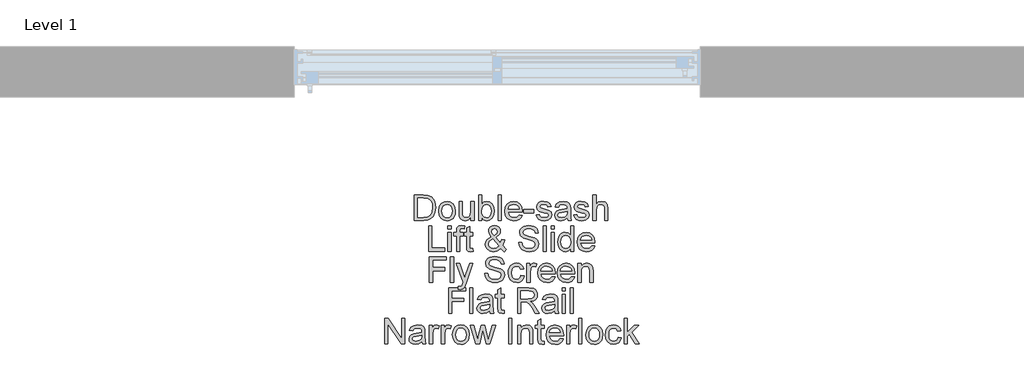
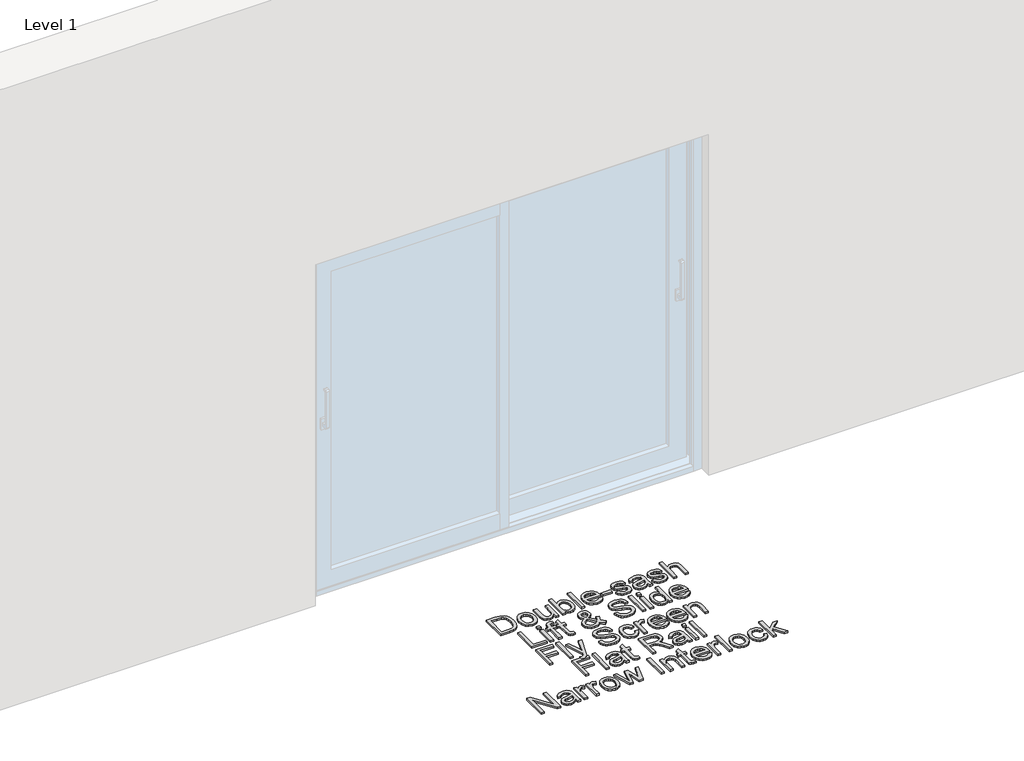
# One storey, part 4 of 7: 1 proxy.
"""IFC4 building model written with IfcOpenShell, lengths in millimetres."""

from ifc_helpers import new_model, si_unit, origin, origin_with_axes, place, context, project, spatial, polyline, outline, extrude, element, save

model = new_model("IFC4")

# Units and contexts
model_context = context("Model", 3, world=origin())
ifc_project = project(units=[si_unit("LENGTHUNIT", "METRE", prefix="MILLI")], contexts=[model_context])

# Site, building, storey
site = spatial("IfcSite", under=ifc_project)
building = spatial("IfcBuilding", under=site)
storey = spatial("IfcBuildingStorey", under=building, Name="Level 1", Elevation=0.0)

# Proxy
placement = place(None, origin())
element("IfcBuildingElementProxy", 1, Name="150mm Arial", ObjectType="150mm Arial", at=placement, inside=storey, context=model_context, shape_type="SweptSolid", body=[
    extrude(outline(polyline([(7088.4009515, -897.6627533), (7088.4009515, -746.9782881), (7140.3826774, -746.9782881), (7167.2748513, -749.1487919), (7189.4213474, -759.9277343), (7199.8416049, -771.4056526), (7207.2636242, -785.679474), (7211.7057993, -802.4732871), (7213.1865243, -821.5111803), (7209.1766105, -851.9166272), (7198.8759147, -873.8607883), (7185.1171281, -887.5276044), (7167.1093044, -895.0875794), (7142.884275, -897.6627533), (7088.4009515, -897.6627533)]), holes=[polyline([(7107.2365097, -878.8271952), (7140.5666184, -878.8271952), (7164.8100419, -876.1048684), (7178.7895577, -868.4161347), (7190.2490819, -849.7093353), (7194.3509661, -821.2168747), (7192.3414107, -800.6890594), (7186.3127445, -785.5323212), (7177.4054017, -775.1212607), (7166.7598165, -768.8304786), (7140.0515836, -765.8138463), (7107.2365097, -765.8138463), (7107.2365097, -878.8271952)])]), origin_with_axes(), (0.0, 0.0, 1.0), 10.0),
    extrude(outline(polyline([(7232.0220824, -842.3333013), (7236.0963755, -815.6526596), (7248.3192548, -796.8998749), (7263.4208107, -787.712022), (7281.5022108, -784.6494044), (7301.2896636, -788.3788081), (7317.0947938, -799.5670193), (7327.4552705, -817.3311212), (7330.9087627, -840.7881969), (7329.3820525, -859.8168931), (7324.8019216, -874.3022466), (7317.3017274, -885.150167), (7307.0148272, -893.2665635), (7294.7965464, -898.3295395), (7281.5022108, -900.0171981), (7261.4756347, -896.30159), (7245.6888986, -885.1547655), (7235.4387865, -867.0181831), (7232.0220824, -842.3333013)]), holes=[polyline([(7250.8576406, -842.2965131), (7253.0373414, -859.343245), (7259.5764439, -871.4879494), (7269.4172873, -878.7582173), (7281.5022108, -881.18164), (7293.531952, -878.7444217), (7303.3544013, -871.4327671), (7309.8935038, -859.1271143), (7312.0732046, -841.7079019), (7309.8797082, -825.1578106), (7303.299219, -813.1786531), (7293.4629742, -805.9083852), (7281.5022108, -803.4849626), (7269.4172873, -805.8991882), (7259.5764439, -813.141865), (7253.0373414, -825.2589782), (7250.8576406, -842.2965131)])]), origin_with_axes(), (0.0, 0.0, 1.0), 10.0),
    extrude(outline(polyline([(7422.7321087, -897.6627533), (7422.7321087, -878.6432542), (7407.9800407, -894.6737121), (7388.7398124, -900.0171981), (7371.0262943, -896.2648018), (7358.8126121, -886.8470227), (7353.2024117, -872.9778715), (7352.0987657, -855.4666885), (7352.0987657, -787.0038492), (7370.9343238, -787.0038492), (7370.9343238, -846.6007324), (7372.074758, -865.8041726), (7379.5243684, -877.0797557), (7393.5590665, -881.18164), (7409.2860218, -876.9877852), (7419.6786882, -865.5650493), (7422.7321087, -844.5773814), (7422.7321087, -787.0038492), (7441.5676669, -787.0038492), (7441.5676669, -897.6627533), (7422.7321087, -897.6627533)])), origin_with_axes(), (0.0, 0.0, 1.0), 10.0),
    extrude(outline(polyline([(7486.3021175, -897.6627533), (7467.4665594, -897.6627533), (7467.4665594, -746.9782881), (7486.3021175, -746.9782881), (7486.3021175, -802.8595632), (7499.490687, -789.2019441), (7515.8798299, -784.6494044), (7534.7521763, -788.7512887), (7549.3938797, -800.2843892), (7558.3885945, -818.2186365), (7561.6443501, -840.6778323), (7558.2736313, -865.8225667), (7548.161475, -884.5293661), (7533.322035, -896.1452401), (7515.7694653, -900.0171981), (7499.0216375, -895.0232), (7486.3021175, -880.0412058), (7486.3021175, -897.6627533)]), holes=[polyline([(7486.3021175, -841.5607491), (7487.5897045, -857.2693103), (7491.4524654, -867.9010999), (7501.3209, -877.861505), (7514.1507845, -881.18164), (7525.0216975, -878.7352247), (7534.3107179, -871.3959789), (7540.6842734, -859.2098878), (7542.808792, -842.2229367), (7540.7716454, -824.9876652), (7534.6602058, -812.9395299), (7525.6608925, -805.8486044), (7514.9601249, -803.4849626), (7504.089212, -805.9313778), (7494.8001916, -813.2706236), (7488.426636, -825.2359855), (7486.3021175, -841.5607491)])]), origin_with_axes(), (0.0, 0.0, 1.0), 10.0),
    extrude(outline(polyline([(7582.834353, -897.6627533), (7582.834353, -746.9782881), (7601.6699112, -746.9782881), (7601.6699112, -897.6627533), (7582.834353, -897.6627533)])), origin_with_axes(), (0.0, 0.0, 1.0), 10.0),
    extrude(outline(polyline([(7707.3991966, -864.7005266), (7725.8668728, -867.0549713), (7719.2128072, -880.9701078), (7708.5948131, -891.3719712), (7694.2520138, -897.8558914), (7676.4235326, -900.0171981), (7654.3230218, -896.2877944), (7637.3176765, -885.0995832), (7626.4743547, -867.1791315), (7622.8599141, -843.2530063), (7626.5111429, -818.5221391), (7637.4648293, -800.0268718), (7654.2402483, -788.4937713), (7675.3566748, -784.6494044), (7695.8155123, -788.4845742), (7712.1632684, -799.9900836), (7722.8824301, -818.4485627), (7726.455484, -843.1426417), (7726.3451194, -848.2194132), (7641.6954723, -848.2194132), (7644.9558265, -862.3184907), (7652.529597, -872.6835659), (7663.4602908, -879.0571214), (7676.7914146, -881.18164), (7695.2590908, -877.2453026), (7707.3991966, -864.7005266)]), holes=[polyline([(7641.6954723, -829.383855), (7707.6199258, -829.383855), (7705.072343, -819.4326471), (7700.0783449, -812.3141305), (7689.0970674, -805.6922545), (7675.2830984, -803.4849626), (7662.5865711, -805.2461976), (7652.0881386, -810.5299028), (7644.7902796, -818.765861), (7641.6954723, -829.383855)])]), origin_with_axes(), (0.0, 0.0, 1.0), 10.0),
    extrude(outline(polyline([(7735.873263, -852.9283027), (7735.873263, -834.0927446), (7794.7343823, -834.0927446), (7794.7343823, -852.9283027), (7735.873263, -852.9283027)])), origin_with_axes(), (0.0, 0.0, 1.0), 10.0),
    extrude(outline(polyline([(7808.8610509, -864.7005266), (7827.696609, -862.3460818), (7830.6672561, -870.4026975), (7836.4154123, -876.3255976), (7856.3914047, -881.18164), (7875.5948448, -876.7302678), (7881.8488387, -866.2824192), (7880.2761432, -861.4815591), (7875.5580566, -857.8211333), (7856.1706755, -852.4500561), (7827.8069736, -843.2346122), (7815.4277445, -832.4740638), (7811.2154956, -817.2805374), (7814.60001, -803.2458393), (7823.8338481, -792.5220791), (7835.808407, -786.9486669), (7852.0136089, -784.6494044), (7874.9326572, -788.3466185), (7889.5007842, -798.3530087), (7895.9755073, -815.2571864), (7877.1399492, -817.6116312), (7870.0582208, -807.2189648), (7853.4851369, -803.4849626), (7835.4589191, -807.0534179), (7830.0510538, -815.367551), (7832.295134, -820.8489927), (7839.3216801, -825.0060593), (7855.5452761, -829.015973), (7883.191608, -837.8819291), (7896.0306896, -847.9251076), (7900.6843969, -864.2958564), (7895.2213492, -882.3220741), (7879.4576058, -895.4002791), (7856.1338873, -900.0171981), (7837.1419793, -897.791512), (7823.2820251, -891.1144538), (7814.0297929, -880.0595999), (7808.8610509, -864.7005266)])), origin_with_axes(), (0.0, 0.0, 1.0), 10.0),
    extrude(outline(polyline([(7992.5077429, -883.5360847), (7974.2424018, -896.30159), (7954.0640744, -900.0171981), (7938.3233235, -897.782315), (7926.712048, -891.0776656), (7919.5521447, -880.8965314), (7917.1655103, -868.2321937), (7920.7707538, -853.3329729), (7930.2437152, -842.5172423), (7943.4322847, -836.3368247), (7959.7294571, -833.5041334), (7992.3973783, -827.0294103), (7992.5077429, -822.8355555), (7991.2109588, -814.4294519), (7987.3206067, -808.9296161), (7978.6201976, -804.846126), (7966.4984858, -803.4849626), (7947.4421985, -807.1086002), (7938.3555132, -819.966076), (7919.519955, -817.6116312), (7927.6685412, -799.2175314), (7944.0760782, -788.438589), (7968.926507, -784.6494044), (7991.7535848, -787.9971306), (8004.6478487, -796.4032342), (8010.423596, -809.1871335), (8011.343301, -825.6682469), (8011.343301, -849.10233), (8012.2997942, -881.8254334), (8016.0521906, -897.6627533), (7997.2166324, -897.6627533), (7992.5077429, -883.5360847)]), holes=[polyline([(7992.5077429, -845.8649684), (7962.1206901, -851.6407157), (7945.9154882, -854.6941363), (7938.5762424, -859.6605432), (7936.0010684, -866.9078185), (7941.6112688, -877.0981498), (7958.0739881, -881.18164), (7977.1302755, -876.6750855), (7989.4175341, -865.7673844), (7992.3973783, -851.1992574), (7992.5077429, -845.8649684)])]), origin_with_axes(), (0.0, 0.0, 1.0), 10.0),
    extrude(outline(polyline([(8030.1788592, -864.7005266), (8049.0144173, -862.3460818), (8051.9850644, -870.4026975), (8057.7332206, -876.3255976), (8077.709213, -881.18164), (8096.9126531, -876.7302678), (8103.166647, -866.2824192), (8101.5939515, -861.4815591), (8096.8758649, -857.8211333), (8077.4884838, -852.4500561), (8049.1247819, -843.2346122), (8036.7455528, -832.4740638), (8032.5333039, -817.2805374), (8035.9178183, -803.2458393), (8045.1516564, -792.5220791), (8057.1262153, -786.9486669), (8073.3314172, -784.6494044), (8096.2504655, -788.3466185), (8110.8185925, -798.3530087), (8117.2933156, -815.2571864), (8098.4577575, -817.6116312), (8091.3760291, -807.2189648), (8074.8029452, -803.4849626), (8056.7767274, -807.0534179), (8051.3688621, -815.367551), (8053.6129423, -820.8489927), (8060.6394884, -825.0060593), (8076.8630844, -829.015973), (8104.5094163, -837.8819291), (8117.3484979, -847.9251076), (8122.0022052, -864.2958564), (8116.5391575, -882.3220741), (8100.7754141, -895.4002791), (8077.4516956, -900.0171981), (8058.4597876, -897.791512), (8044.5998334, -891.1144538), (8035.3476012, -880.0595999), (8030.1788592, -864.7005266)])), origin_with_axes(), (0.0, 0.0, 1.0), 10.0),
    extrude(outline(polyline([(8143.1922081, -897.6627533), (8143.1922081, -746.9782881), (8162.0277662, -746.9782881), (8162.0277662, -802.3813166), (8176.7154549, -789.0823825), (8194.806052, -784.6494044), (8215.9592667, -789.4870527), (8228.7983484, -802.8595632), (8232.6611093, -827.6180215), (8232.6611093, -897.6627533), (8213.8255512, -897.6627533), (8213.8255512, -829.567796), (8212.326432, -817.7771781), (8207.8290746, -809.7021683), (8200.5817993, -805.039264), (8190.8329265, -803.4849626), (8175.4002768, -807.6788173), (8165.0995809, -819.046371), (8162.0277662, -838.8752105), (8162.0277662, -897.6627533), (8143.1922081, -897.6627533)])), origin_with_axes(), (0.0, 0.0, 1.0), 10.0),
    extrude(outline(polyline([(7173.1609632, -1080.6249801), (7173.1609632, -929.9405149), (7191.9965214, -929.9405149), (7191.9965214, -1061.789422), (7267.338754, -1061.789422), (7267.338754, -1080.6249801), (7173.1609632, -1080.6249801)])), origin_with_axes(), (0.0, 0.0, 1.0), 10.0),
    extrude(outline(polyline([(7286.1743121, -948.776073), (7286.1743121, -929.9405149), (7305.0098703, -929.9405149), (7305.0098703, -948.776073), (7286.1743121, -948.776073)])), origin_with_axes(), (0.0, 0.0, 1.0), 10.0),
    extrude(outline(polyline([(7286.1743121, -1080.6249801), (7286.1743121, -969.966076), (7305.0098703, -969.966076), (7305.0098703, -1080.6249801), (7286.1743121, -1080.6249801)])), origin_with_axes(), (0.0, 0.0, 1.0), 10.0),
    extrude(outline(polyline([(7337.9720971, -1080.6249801), (7337.9720971, -988.8016341), (7321.4909837, -988.8016341), (7321.4909837, -969.966076), (7337.9720971, -969.966076), (7337.9720971, -958.8192515), (7339.9586598, -943.1106903), (7349.5971681, -931.8902895), (7368.5798791, -927.5860701), (7385.7599682, -929.6462093), (7383.0008533, -947.3045451), (7372.1483344, -946.4216283), (7360.2841401, -949.5486252), (7356.8076552, -961.2104845), (7356.8076552, -969.966076), (7377.9976581, -969.966076), (7377.9976581, -988.8016341), (7356.8076552, -988.8016341), (7356.8076552, -1080.6249801), (7337.9720971, -1080.6249801)])), origin_with_axes(), (0.0, 0.0, 1.0), 10.0),
    extrude(outline(polyline([(7434.5043326, -1064.9164189), (7436.8587774, -1081.1768031), (7422.7688969, -1082.9794249), (7406.9867593, -1079.8524279), (7399.1140847, -1071.6486594), (7396.8332163, -1050.2747155), (7396.8332163, -988.8016341), (7382.7065477, -988.8016341), (7382.7065477, -969.966076), (7396.8332163, -969.966076), (7396.8332163, -943.0739021), (7415.6687744, -932.0006541), (7415.6687744, -969.966076), (7434.5043326, -969.966076), (7434.5043326, -988.8016341), (7415.6687744, -988.8016341), (7415.6687744, -1049.7228925), (7416.6620558, -1059.4349772), (7419.8810233, -1062.8746738), (7426.3005641, -1064.1438667), (7434.5043326, -1064.9164189)])), origin_with_axes(), (0.0, 0.0, 1.0), 10.0),
    extrude(outline(polyline([(7598.6164906, -1062.0101512), (7578.6404983, -1077.7371064), (7555.2799916, -1082.9794249), (7534.4946589, -1079.0982698), (7518.4917921, -1067.4548047), (7510.2420383, -1054.054703), (7507.4921204, -1039.1646793), (7509.7040109, -1025.9669127), (7516.3396824, -1014.1119154), (7527.3715437, -1003.6088844), (7542.7720038, -994.4670168), (7529.6202224, -975.4107295), (7526.3276786, -961.2840609), (7528.9212467, -948.5645409), (7536.7019508, -937.6292486), (7548.4097953, -930.0968647), (7562.7847843, -927.5860701), (7576.4607975, -929.9865001), (7587.3960898, -937.1877902), (7594.5697887, -947.7552005), (7596.9610217, -960.2539913), (7595.1905896, -970.7478252), (7589.8792933, -980.4507128), (7568.634108, -997.4836492), (7595.8941639, -1031.4391574), (7604.024356, -1010.5802482), (7622.8599141, -1014.6637384), (7609.5425859, -1045.6761906), (7632.2776932, -1068.4848743), (7618.1510246, -1082.9794249), (7598.6164906, -1062.0101512)]), holes=[polyline([(7559.1059644, -985.6010608), (7574.5937964, -973.9208074), (7578.1254635, -962.8291653), (7573.4717563, -951.0017591), (7561.8282911, -946.4216283), (7549.9273086, -950.9649709), (7545.1632367, -962.0566131), (7546.7819175, -968.9544005), (7551.6747481, -976.6247401), (7559.1059644, -985.6010608)]), polyline([(7585.9981382, -1048.4353055), (7552.3737238, -1006.4599699), (7531.6803616, -1022.2421075), (7526.3276786, -1036.6630817), (7528.1578915, -1045.5474319), (7533.6485303, -1054.7628758), (7542.4960923, -1061.798619), (7554.3970748, -1064.1438667), (7571.7059227, -1059.766071), (7585.9981382, -1048.4353055)])]), origin_with_axes(), (0.0, 0.0, 1.0), 10.0),
    extrude(outline(polyline([(7705.265481, -1028.8271952), (7724.1010392, -1028.8271952), (7730.1710921, -1047.6811474), (7744.9967365, -1059.6005241), (7767.584691, -1064.1438667), (7787.2663778, -1060.7041701), (7799.9767007, -1051.2496028), (7804.1521613, -1038.6128563), (7801.0251644, -1026.8590265), (7788.222871, -1018.3057701), (7760.7972682, -1011.1136771), (7731.2747381, -1001.8246567), (7715.2534772, -987.8083527), (7709.9743706, -969.0831592), (7711.6068469, -958.0512978), (7716.504276, -947.7643976), (7724.5378991, -939.0455943), (7735.5789574, -932.7180239), (7763.5012009, -927.5860701), (7793.2996425, -932.9571472), (7804.7223784, -939.5882202), (7813.1652702, -948.7392848), (7818.5087562, -959.840124), (7820.6332747, -972.3205207), (7801.7977166, -972.3205207), (7798.3396258, -961.0817258), (7791.1291387, -952.9699278), (7779.8627526, -948.0587031), (7764.2369649, -946.4216283), (7748.2432951, -948.040309), (7737.2712146, -952.8963514), (7730.9252502, -960.0424591), (7728.8099287, -968.5313362), (7730.3090479, -975.7694144), (7734.8064053, -981.591147), (7765.56134, -992.1125721), (7798.8914488, -1001.5671393), (7809.6290045, -1008.4005474), (7817.1200017, -1016.8342421), (7821.52079, -1026.7762531), (7822.9877195, -1038.1346097), (7821.3000608, -1049.7458851), (7816.2370849, -1060.6673819), (7808.0057252, -1070.0667668), (7796.8129155, -1077.1117071), (7783.353033, -1081.5124954), (7768.320455, -1082.9794249), (7749.8665744, -1081.3975323), (7734.6776466, -1076.6518546), (7722.5789274, -1068.7239976), (7713.3956731, -1057.5955672), (7707.5003642, -1044.0391157), (7705.265481, -1028.8271952)])), origin_with_axes(), (0.0, 0.0, 1.0), 10.0),
    extrude(outline(polyline([(7848.886612, -1080.6249801), (7848.886612, -929.9405149), (7867.7221701, -929.9405149), (7867.7221701, -1080.6249801), (7848.886612, -1080.6249801)])), origin_with_axes(), (0.0, 0.0, 1.0), 10.0),
    extrude(outline(polyline([(7895.9755073, -948.776073), (7895.9755073, -929.9405149), (7914.8110655, -929.9405149), (7914.8110655, -948.776073), (7895.9755073, -948.776073)])), origin_with_axes(), (0.0, 0.0, 1.0), 10.0),
    extrude(outline(polyline([(7895.9755073, -1080.6249801), (7895.9755073, -969.966076), (7914.8110655, -969.966076), (7914.8110655, -1080.6249801), (7895.9755073, -1080.6249801)])), origin_with_axes(), (0.0, 0.0, 1.0), 10.0),
    extrude(outline(polyline([(8011.343301, -1080.6249801), (8011.343301, -1062.8562797), (7998.8812984, -1077.9486386), (7981.655224, -1082.9794249), (7969.47833, -1081.158409), (7958.3315055, -1075.6953614), (7948.8953323, -1066.9719596), (7941.8503921, -1055.3698811), (7937.4633993, -1041.3581756), (7936.0010684, -1025.4058926), (7941.3905396, -995.42351), (7948.1227802, -983.5317245), (7957.5405592, -974.7853301), (7968.9311055, -969.4050559), (7981.5816476, -967.6116312), (7998.9456778, -972.743585), (8011.343301, -986.0793073), (8011.343301, -929.9405149), (8030.1788592, -929.9405149), (8030.1788592, -1080.6249801), (8011.343301, -1080.6249801)]), holes=[polyline([(7954.8366266, -1025.3323162), (7956.9611451, -1042.3698511), (7963.3347007, -1054.4869644), (7972.5961299, -1061.7296411), (7983.3842694, -1064.1438667), (7994.1678104, -1061.8400057), (8003.1947148, -1054.9284227), (8009.3061545, -1043.2803591), (8011.343301, -1026.767056), (8009.2693663, -1008.7132471), (8003.047562, -996.1960622), (7993.7907313, -988.8844076), (7982.6117172, -986.4471893), (7971.7132131, -988.7878385), (7962.7828777, -995.8097861), (7956.8231893, -1007.871717), (7954.8366266, -1025.3323162)])]), origin_with_axes(), (0.0, 0.0, 1.0), 10.0),
    extrude(outline(polyline([(8135.9081446, -1047.6627533), (8154.3758208, -1050.0171981), (8147.7217552, -1063.9323346), (8137.1037611, -1074.334198), (8122.7609618, -1080.8181182), (8104.9324806, -1082.9794249), (8082.8319697, -1079.2500212), (8065.8266245, -1068.06181), (8054.9833027, -1050.1413583), (8051.3688621, -1026.215233), (8055.0200909, -1001.4843659), (8065.9737773, -982.9890986), (8082.7491963, -971.455998), (8103.8656228, -967.6116312), (8124.3244603, -971.446801), (8140.6722164, -982.9523104), (8151.3913781, -1001.4107895), (8154.9644319, -1026.1048684), (8154.8540673, -1031.18164), (8070.2044203, -1031.18164), (8073.4647744, -1045.2807174), (8081.038545, -1055.6457926), (8091.9692388, -1062.0193482), (8105.3003626, -1064.1438667), (8123.7680388, -1060.2075294), (8135.9081446, -1047.6627533)]), holes=[polyline([(8070.2044203, -1012.3460818), (8136.1288738, -1012.3460818), (8133.581291, -1002.3948738), (8128.5872929, -995.2763572), (8117.6060153, -988.6544813), (8103.7920464, -986.4471893), (8091.0955191, -988.2084244), (8080.5970866, -993.4921296), (8073.2992275, -1001.7280877), (8070.2044203, -1012.3460818)])]), origin_with_axes(), (0.0, 0.0, 1.0), 10.0),
    extrude(outline(polyline([(7176.6926304, -1263.5872069), (7176.6926304, -1112.9027417), (7277.9337554, -1112.9027417), (7277.9337554, -1131.7382998), (7195.5281885, -1131.7382998), (7195.5281885, -1176.4727504), (7266.1615316, -1176.4727504), (7266.1615316, -1195.3083086), (7195.5281885, -1195.3083086), (7195.5281885, -1263.5872069), (7176.6926304, -1263.5872069)])), origin_with_axes(), (0.0, 0.0, 1.0), 10.0),
    extrude(outline(polyline([(7301.4782031, -1263.5872069), (7301.4782031, -1112.9027417), (7320.3137613, -1112.9027417), (7320.3137613, -1263.5872069), (7301.4782031, -1263.5872069)])), origin_with_axes(), (0.0, 0.0, 1.0), 10.0),
    extrude(outline(polyline([(7348.5670985, -1305.9672127), (7346.2126537, -1287.8306304), (7355.7775856, -1289.4860993), (7364.7171181, -1287.4075661), (7370.1985598, -1281.6134246), (7375.3489078, -1267.7442734), (7376.8204357, -1263.1825367), (7336.7948747, -1152.9283027), (7356.6605024, -1152.9283027), (7377.8872935, -1214.3645959), (7385.2817216, -1238.9391132), (7392.6761497, -1217.2340755), (7414.4915521, -1152.9283027), (7434.210027, -1152.9283027), (7395.6927821, -1266.2359572), (7385.6863918, -1290.8104745), (7374.7602966, -1304.0910145), (7360.081805, -1308.3216575), (7348.5670985, -1305.9672127)])), origin_with_axes(), (0.0, 0.0, 1.0), 10.0),
    extrude(outline(polyline([(7503.9604533, -1211.789422), (7522.7960114, -1211.789422), (7528.8660644, -1230.6433742), (7543.6917088, -1242.5627509), (7566.2796633, -1247.1060935), (7585.96135, -1243.6663968), (7598.6716729, -1234.2118296), (7602.8471336, -1221.575083), (7599.7201366, -1209.8212533), (7586.9178432, -1201.2679969), (7559.4922404, -1194.0759039), (7529.9697103, -1184.7868835), (7513.9484494, -1170.7705795), (7508.6693428, -1152.0453859), (7510.3018192, -1141.0135246), (7515.1992482, -1130.7266243), (7523.2328713, -1122.007821), (7534.2739297, -1115.6802507), (7562.1961731, -1110.5482969), (7591.9946147, -1115.919374), (7603.4173507, -1122.550447), (7611.8602425, -1131.7015116), (7617.2037284, -1142.8023508), (7619.328247, -1155.2827475), (7600.4926888, -1155.2827475), (7597.0345981, -1144.0439525), (7589.824111, -1135.9321546), (7578.5577248, -1131.0209299), (7562.9319371, -1129.383855), (7546.9382674, -1131.0025358), (7535.9661869, -1135.8585782), (7529.6202224, -1143.0046859), (7527.504901, -1151.4935629), (7529.0040201, -1158.7316412), (7533.5013775, -1164.5533738), (7564.2563123, -1175.0747988), (7597.5864211, -1184.5293661), (7608.3239768, -1191.3627742), (7615.8149739, -1199.7964689), (7620.2157623, -1209.7384798), (7621.6826917, -1221.0968364), (7619.9950331, -1232.7081119), (7614.9320571, -1243.6296086), (7606.7006975, -1253.0289936), (7595.5078878, -1260.0739338), (7582.0480053, -1264.4747222), (7567.0154273, -1265.9416516), (7548.5615467, -1264.3597591), (7533.3726188, -1259.6140813), (7521.2738997, -1251.6862243), (7512.0906454, -1240.557794), (7506.1953364, -1227.0013425), (7503.9604533, -1211.789422)])), origin_with_axes(), (0.0, 0.0, 1.0), 10.0),
    extrude(outline(polyline([(7718.2149273, -1223.5616458), (7737.0504854, -1225.9160906), (7731.7989699, -1242.6685169), (7721.9305354, -1255.3282561), (7708.3740839, -1263.2883028), (7692.0585174, -1265.9416516), (7672.0227442, -1262.2398391), (7656.3555698, -1251.1344013), (7646.2434134, -1233.1127821), (7642.8726947, -1208.662425), (7644.312033, -1191.9008016), (7648.6300479, -1177.3740613), (7655.8957173, -1165.6432242), (7666.1780191, -1157.2693103), (7678.4790733, -1152.247721), (7691.801, -1150.573858), (7707.7164948, -1152.8731204), (7720.4406133, -1159.7709078), (7729.5686853, -1170.8993382), (7734.6960407, -1185.8905295), (7715.8604825, -1188.2449743), (7707.1232851, -1174.1366998), (7691.9481528, -1169.4094161), (7679.7758573, -1171.7362697), (7670.1143564, -1178.7168306), (7663.8097787, -1190.7281777), (7661.7082528, -1208.1473902), (7663.7637935, -1225.8011274), (7669.9304154, -1237.8538613), (7679.4171724, -1244.7930354), (7691.433118, -1247.1060935), (7701.1865894, -1245.6621567), (7709.1834243, -1241.3303462), (7715.0005583, -1234.0002974), (7718.2149273, -1223.5616458)])), origin_with_axes(), (0.0, 0.0, 1.0), 10.0),
    extrude(outline(polyline([(7753.5315988, -1263.5872069), (7753.5315988, -1152.9283027), (7770.0127122, -1152.9283027), (7770.0127122, -1169.2990515), (7781.7113596, -1154.2158897), (7793.4835835, -1150.573858), (7812.392718, -1156.3863935), (7806.1019359, -1173.2721771), (7792.8581841, -1169.4094161), (7782.2080003, -1173.1250243), (7775.4205775, -1183.4257201), (7772.367157, -1205.4250634), (7772.367157, -1263.5872069), (7753.5315988, -1263.5872069)])), origin_with_axes(), (0.0, 0.0, 1.0), 10.0),
    extrude(outline(polyline([(7901.6408901, -1230.6249801), (7920.1085662, -1232.9794249), (7913.4545006, -1246.8945613), (7902.8365065, -1257.2964248), (7888.4937073, -1263.7803449), (7870.6652261, -1265.9416516), (7848.5647152, -1262.2122479), (7831.55937, -1251.0240367), (7820.7160482, -1233.1035851), (7817.1016076, -1209.1774598), (7820.7528364, -1184.4465927), (7831.7065228, -1165.9513254), (7848.4819418, -1154.4182248), (7869.5983683, -1150.573858), (7890.0572057, -1154.4090278), (7906.4049619, -1165.9145372), (7917.1241235, -1184.3730163), (7920.6971774, -1209.0670952), (7920.5868128, -1214.1438667), (7835.9371657, -1214.1438667), (7839.1975199, -1228.2429442), (7846.7712905, -1238.6080194), (7857.7019843, -1244.981575), (7871.0331081, -1247.1060935), (7889.5007842, -1243.1697561), (7901.6408901, -1230.6249801)]), holes=[polyline([(7835.9371657, -1195.3083086), (7901.8616193, -1195.3083086), (7899.3140364, -1185.3571006), (7894.3200384, -1178.238584), (7883.3387608, -1171.6167081), (7869.5247919, -1169.4094161), (7856.8282645, -1171.1706512), (7846.3298321, -1176.4543563), (7839.031973, -1184.6903145), (7835.9371657, -1195.3083086)])]), origin_with_axes(), (0.0, 0.0, 1.0), 10.0),
    extrude(outline(polyline([(8017.0086838, -1230.6249801), (8035.4763599, -1232.9794249), (8028.8222943, -1246.8945613), (8018.2043002, -1257.2964248), (8003.8615009, -1263.7803449), (7986.0330198, -1265.9416516), (7963.9325089, -1262.2122479), (7946.9271637, -1251.0240367), (7936.0838419, -1233.1035851), (7932.4694013, -1209.1774598), (7936.1206301, -1184.4465927), (7947.0743165, -1165.9513254), (7963.8497354, -1154.4182248), (7984.966162, -1150.573858), (8005.4249994, -1154.4090278), (8021.7727556, -1165.9145372), (8032.4919172, -1184.3730163), (8036.0649711, -1209.0670952), (8035.9546065, -1214.1438667), (7951.3049594, -1214.1438667), (7954.5653136, -1228.2429442), (7962.1390842, -1238.6080194), (7973.069778, -1244.981575), (7986.4009018, -1247.1060935), (8004.8685779, -1243.1697561), (8017.0086838, -1230.6249801)]), holes=[polyline([(7951.3049594, -1195.3083086), (8017.2294129, -1195.3083086), (8014.6818301, -1185.3571006), (8009.687832, -1178.238584), (7998.7065545, -1171.6167081), (7984.8925856, -1169.4094161), (7972.1960582, -1171.1706512), (7961.6976258, -1176.4543563), (7954.3997667, -1184.6903145), (7951.3049594, -1195.3083086)])]), origin_with_axes(), (0.0, 0.0, 1.0), 10.0),
    extrude(outline(polyline([(8054.9005293, -1263.5872069), (8054.9005293, -1152.9283027), (8073.7360874, -1152.9283027), (8073.7360874, -1168.3793465), (8088.1386675, -1155.0252301), (8107.8019602, -1150.573858), (8125.5890546, -1154.1607074), (8137.7291605, -1163.5784865), (8143.3761491, -1177.4292436), (8144.3694305, -1195.6394024), (8144.3694305, -1263.5872069), (8125.5338723, -1263.5872069), (8125.5338723, -1198.1777881), (8123.3633686, -1181.5127338), (8115.693029, -1172.70196), (8102.7619768, -1169.4094161), (8091.7301155, -1171.2580231), (8082.326132, -1176.8038442), (8075.8835986, -1187.5184073), (8073.7360874, -1204.8732404), (8073.7360874, -1263.5872069), (8054.9005293, -1263.5872069)])), origin_with_axes(), (0.0, 0.0, 1.0), 10.0),
    extrude(outline(polyline([(7290.8832017, -1446.5494336), (7290.8832017, -1295.8649684), (7392.1243267, -1295.8649684), (7392.1243267, -1314.7005266), (7309.7187598, -1314.7005266), (7309.7187598, -1359.4349772), (7380.3521029, -1359.4349772), (7380.3521029, -1378.2705353), (7309.7187598, -1378.2705353), (7309.7187598, -1446.5494336), (7290.8832017, -1446.5494336)])), origin_with_axes(), (0.0, 0.0, 1.0), 10.0),
    extrude(outline(polyline([(7415.6687744, -1446.5494336), (7415.6687744, -1295.8649684), (7434.5043326, -1295.8649684), (7434.5043326, -1446.5494336), (7415.6687744, -1446.5494336)])), origin_with_axes(), (0.0, 0.0, 1.0), 10.0),
    extrude(outline(polyline([(7533.3910129, -1432.422765), (7515.1256718, -1445.1882703), (7494.9473444, -1448.9038784), (7479.2065935, -1446.6689953), (7467.5953181, -1439.9643459), (7460.4354147, -1429.7832117), (7458.0487803, -1417.118874), (7461.6540238, -1402.2196532), (7471.1269852, -1391.4039226), (7484.3155547, -1385.223505), (7500.6127271, -1382.3908137), (7533.2806483, -1375.9160906), (7533.3910129, -1371.7222358), (7532.0942289, -1363.3161322), (7528.2038768, -1357.8162964), (7519.5034676, -1353.7328063), (7507.3817558, -1352.3716429), (7488.3254685, -1355.9952805), (7479.2387832, -1368.8527563), (7460.403225, -1366.4983115), (7468.5518112, -1348.1042117), (7484.9593482, -1337.3252693), (7509.809777, -1333.5360847), (7532.6368548, -1336.8838109), (7545.5311187, -1345.2899145), (7551.3068661, -1358.0738138), (7552.226571, -1374.5549272), (7552.226571, -1397.9890103), (7553.1830642, -1430.7121138), (7556.9354606, -1446.5494336), (7538.0999024, -1446.5494336), (7533.3910129, -1432.422765)]), holes=[polyline([(7533.3910129, -1394.7516487), (7503.0039601, -1400.527396), (7486.7987582, -1403.5808166), (7479.4595124, -1408.5472235), (7476.8843384, -1415.7944988), (7482.4945389, -1425.9848301), (7498.9572581, -1430.0683203), (7518.0135455, -1425.5617658), (7530.3008041, -1414.6540647), (7533.2806483, -1400.0859377), (7533.3910129, -1394.7516487)])]), origin_with_axes(), (0.0, 0.0, 1.0), 10.0),
    extrude(outline(polyline([(7618.1510246, -1430.8408725), (7620.5054693, -1447.1012566), (7606.4155889, -1448.9038784), (7590.6334513, -1445.7768815), (7582.7607766, -1437.573113), (7580.4799083, -1416.199169), (7580.4799083, -1354.7260876), (7566.3532397, -1354.7260876), (7566.3532397, -1335.8905295), (7580.4799083, -1335.8905295), (7580.4799083, -1308.9983556), (7599.3154664, -1297.9251076), (7599.3154664, -1335.8905295), (7618.1510246, -1335.8905295), (7618.1510246, -1354.7260876), (7599.3154664, -1354.7260876), (7599.3154664, -1415.6473461), (7600.3087478, -1425.3594307), (7603.5277153, -1428.7991274), (7609.9472561, -1430.0683203), (7618.1510246, -1430.8408725)])), origin_with_axes(), (0.0, 0.0, 1.0), 10.0),
    extrude(outline(polyline([(7698.2021467, -1446.5494336), (7698.2021467, -1295.8649684), (7763.1333189, -1295.8649684), (7793.2812484, -1299.9300645), (7802.5610717, -1305.558659), (7809.7623618, -1314.3142505), (7814.3838793, -1325.1713679), (7815.9243852, -1337.1045401), (7813.3722038, -1351.9485786), (7805.7156598, -1364.2542313), (7792.7248269, -1373.2765373), (7774.1697787, -1378.2705353), (7784.8751448, -1386.327151), (7800.1422476, -1405.7145322), (7825.2685879, -1446.5494336), (7803.3796092, -1446.5494336), (7783.7714988, -1415.3162523), (7769.608042, -1394.6412841), (7759.656834, -1384.8740172), (7750.6989074, -1381.2871677), (7739.7728122, -1380.6249801), (7717.0377049, -1380.6249801), (7717.0377049, -1446.5494336), (7698.2021467, -1446.5494336)]), holes=[polyline([(7717.0377049, -1361.789422), (7759.1969815, -1361.789422), (7780.6996841, -1359.1222775), (7792.9133664, -1350.5874152), (7797.088827, -1337.8035159), (7795.0976657, -1328.615663), (7789.1241818, -1321.2120379), (7778.8464786, -1316.3284044), (7763.9426593, -1314.7005266), (7717.0377049, -1314.7005266), (7717.0377049, -1361.789422)])]), origin_with_axes(), (0.0, 0.0, 1.0), 10.0),
    extrude(outline(polyline([(7917.1655103, -1432.422765), (7898.9001692, -1445.1882703), (7878.7218418, -1448.9038784), (7862.9810909, -1446.6689953), (7851.3698154, -1439.9643459), (7844.2099121, -1429.7832117), (7841.8232776, -1417.118874), (7845.4285212, -1402.2196532), (7854.9014826, -1391.4039226), (7868.0900521, -1385.223505), (7884.3872245, -1382.3908137), (7917.0551457, -1375.9160906), (7917.1655103, -1371.7222358), (7915.8687262, -1363.3161322), (7911.9783741, -1357.8162964), (7903.2779649, -1353.7328063), (7891.1562532, -1352.3716429), (7872.0999659, -1355.9952805), (7863.0132806, -1368.8527563), (7844.1777224, -1366.4983115), (7852.3263086, -1348.1042117), (7868.7338456, -1337.3252693), (7893.5842744, -1333.5360847), (7916.4113522, -1336.8838109), (7929.3056161, -1345.2899145), (7935.0813634, -1358.0738138), (7936.0010684, -1374.5549272), (7936.0010684, -1397.9890103), (7936.9575616, -1430.7121138), (7940.709958, -1446.5494336), (7921.8743998, -1446.5494336), (7917.1655103, -1432.422765)]), holes=[polyline([(7917.1655103, -1394.7516487), (7886.7784575, -1400.527396), (7870.5732556, -1403.5808166), (7863.2340098, -1408.5472235), (7860.6588358, -1415.7944988), (7866.2690362, -1425.9848301), (7882.7317555, -1430.0683203), (7901.7880429, -1425.5617658), (7914.0753015, -1414.6540647), (7917.0551457, -1400.0859377), (7917.1655103, -1394.7516487)])]), origin_with_axes(), (0.0, 0.0, 1.0), 10.0),
    extrude(outline(polyline([(7961.8999609, -1314.7005266), (7961.8999609, -1295.8649684), (7980.735519, -1295.8649684), (7980.735519, -1314.7005266), (7961.8999609, -1314.7005266)])), origin_with_axes(), (0.0, 0.0, 1.0), 10.0),
    extrude(outline(polyline([(7961.8999609, -1446.5494336), (7961.8999609, -1335.8905295), (7980.735519, -1335.8905295), (7980.735519, -1446.5494336), (7961.8999609, -1446.5494336)])), origin_with_axes(), (0.0, 0.0, 1.0), 10.0),
    extrude(outline(polyline([(8008.9888563, -1446.5494336), (8008.9888563, -1295.8649684), (8027.8244144, -1295.8649684), (8027.8244144, -1446.5494336), (8008.9888563, -1446.5494336)])), origin_with_axes(), (0.0, 0.0, 1.0), 10.0),
    extrude(outline(polyline([(6912.9948162, -1629.5116604), (6912.9948162, -1478.8271952), (6933.1547496, -1478.8271952), (7011.8814965, -1598.2049026), (7011.8814965, -1478.8271952), (7030.7170547, -1478.8271952), (7030.7170547, -1629.5116604), (7010.5571213, -1629.5116604), (6931.8303744, -1510.0971648), (6931.8303744, -1629.5116604), (6912.9948162, -1629.5116604)])), origin_with_axes(), (0.0, 0.0, 1.0), 10.0),
    extrude(outline(polyline([(7131.9581798, -1615.3849918), (7113.6928387, -1628.150497), (7093.5145113, -1631.8661052), (7077.7737604, -1629.6312221), (7066.1624849, -1622.9265727), (7059.0025816, -1612.7454385), (7056.6159471, -1600.0811008), (7060.2211907, -1585.18188), (7069.6941521, -1574.3661493), (7082.8827216, -1568.1857318), (7099.179894, -1565.3530405), (7131.8478152, -1558.8783173), (7131.9581798, -1554.6844626), (7130.6613957, -1546.278359), (7126.7710436, -1540.7785232), (7118.0706344, -1536.695033), (7105.9489227, -1535.3338696), (7086.8926353, -1538.9575073), (7077.8059501, -1551.814983), (7058.9703919, -1549.4605383), (7067.1189781, -1531.0664385), (7083.5265151, -1520.287496), (7108.3769439, -1516.4983115), (7131.2040217, -1519.8460377), (7144.0982856, -1528.2521412), (7149.8740329, -1541.0360406), (7150.7937379, -1557.517154), (7150.7937379, -1580.9512371), (7151.7502311, -1613.6743405), (7155.5026274, -1629.5116604), (7136.6670693, -1629.5116604), (7131.9581798, -1615.3849918)]), holes=[polyline([(7131.9581798, -1577.7138755), (7101.571127, -1583.4896228), (7085.3659251, -1586.5430434), (7078.0266793, -1591.5094503), (7075.4515053, -1598.7567256), (7081.0617057, -1608.9470569), (7097.524425, -1613.030547), (7116.5807124, -1608.5239926), (7128.867971, -1597.6162914), (7131.8478152, -1583.0481644), (7131.9581798, -1577.7138755)])]), origin_with_axes(), (0.0, 0.0, 1.0), 10.0),
    extrude(outline(polyline([(7176.6926304, -1629.5116604), (7176.6926304, -1518.8527563), (7193.1737438, -1518.8527563), (7193.1737438, -1535.223505), (7204.8723912, -1520.1403432), (7216.644615, -1516.4983115), (7235.5537496, -1522.310847), (7229.2629675, -1539.1966306), (7216.0192157, -1535.3338696), (7205.3690319, -1539.0494778), (7198.5816091, -1549.3501737), (7195.5281885, -1571.349517), (7195.5281885, -1629.5116604), (7176.6926304, -1629.5116604)])), origin_with_axes(), (0.0, 0.0, 1.0), 10.0),
    extrude(outline(polyline([(7247.3259734, -1629.5116604), (7247.3259734, -1518.8527563), (7263.8070868, -1518.8527563), (7263.8070868, -1535.223505), (7275.5057343, -1520.1403432), (7287.2779581, -1516.4983115), (7306.1870927, -1522.310847), (7299.8963106, -1539.1966306), (7286.6525587, -1535.3338696), (7276.002375, -1539.0494778), (7269.2149522, -1549.3501737), (7266.1615316, -1571.349517), (7266.1615316, -1629.5116604), (7247.3259734, -1629.5116604)])), origin_with_axes(), (0.0, 0.0, 1.0), 10.0),
    extrude(outline(polyline([(7313.250427, -1574.1822083), (7317.3247201, -1547.5015666), (7329.5475994, -1528.7487819), (7344.6491553, -1519.5609291), (7362.7305553, -1516.4983115), (7382.5180081, -1520.2277152), (7398.3231384, -1531.4159264), (7408.6836151, -1549.1800282), (7412.1371073, -1572.637104), (7410.610397, -1591.6658002), (7406.0302662, -1606.1511537), (7398.530072, -1616.9990741), (7388.2431717, -1625.1154706), (7376.0248909, -1630.1784465), (7362.7305553, -1631.8661052), (7342.7039792, -1628.150497), (7326.9172431, -1617.0036726), (7316.667131, -1598.8670902), (7313.250427, -1574.1822083)]), holes=[polyline([(7332.0859851, -1574.1454201), (7334.265686, -1591.1921521), (7340.8047884, -1603.3368565), (7350.6456318, -1610.6071244), (7362.7305553, -1613.030547), (7374.7602966, -1610.5933288), (7384.5827458, -1603.2816742), (7391.1218483, -1590.9760214), (7393.3015491, -1573.5568089), (7391.1080527, -1557.0067177), (7384.5275635, -1545.0275602), (7374.6913187, -1537.7572923), (7362.7305553, -1535.3338696), (7350.6456318, -1537.7480952), (7340.8047884, -1544.990772), (7334.265686, -1557.1078852), (7332.0859851, -1574.1454201)])]), origin_with_axes(), (0.0, 0.0, 1.0), 10.0),
    extrude(outline(polyline([(7451.6844218, -1629.5116604), (7418.0232192, -1518.8527563), (7437.5945413, -1518.8527563), (7456.6876169, -1583.4160464), (7462.3897878, -1606.4822475), (7467.0618892, -1584.262175), (7482.2554156, -1518.8527563), (7504.6962173, -1518.8527563), (7519.8161673, -1584.078234), (7523.9732338, -1604.2013791), (7529.9329221, -1582.974588), (7549.0627859, -1518.8527563), (7568.7076844, -1518.8527563), (7534.7889645, -1629.5116604), (7512.017069, -1629.5116604), (7497.5593066, -1564.6172765), (7493.3654518, -1544.3837667), (7474.7138347, -1629.5116604), (7451.6844218, -1629.5116604)])), origin_with_axes(), (0.0, 0.0, 1.0), 10.0),
    extrude(outline(polyline([(7645.2271394, -1629.5116604), (7645.2271394, -1478.8271952), (7664.0626976, -1478.8271952), (7664.0626976, -1629.5116604), (7645.2271394, -1629.5116604)])), origin_with_axes(), (0.0, 0.0, 1.0), 10.0),
    extrude(outline(polyline([(7699.3793691, -1629.5116604), (7699.3793691, -1518.8527563), (7718.2149273, -1518.8527563), (7718.2149273, -1534.3038001), (7732.6175074, -1520.9496836), (7752.2808, -1516.4983115), (7770.0678945, -1520.0851609), (7782.2080003, -1529.50294), (7787.854989, -1543.3536971), (7788.8482703, -1561.5638559), (7788.8482703, -1629.5116604), (7770.0127122, -1629.5116604), (7770.0127122, -1564.1022417), (7767.8422084, -1547.4371873), (7760.1718688, -1538.6264135), (7747.2408167, -1535.3338696), (7736.2089554, -1537.1824767), (7726.8049719, -1542.7282978), (7720.3624384, -1553.4428609), (7718.2149273, -1570.797694), (7718.2149273, -1629.5116604), (7699.3793691, -1629.5116604)])), origin_with_axes(), (0.0, 0.0, 1.0), 10.0),
    extrude(outline(polyline([(7854.7727239, -1613.8030992), (7857.1271686, -1630.0634834), (7843.0372882, -1631.8661052), (7827.2551506, -1628.7391082), (7819.3824759, -1620.5353397), (7817.1016076, -1599.1613958), (7817.1016076, -1537.6883144), (7802.974939, -1537.6883144), (7802.974939, -1518.8527563), (7817.1016076, -1518.8527563), (7817.1016076, -1491.9605824), (7835.9371657, -1480.8873344), (7835.9371657, -1518.8527563), (7854.7727239, -1518.8527563), (7854.7727239, -1537.6883144), (7835.9371657, -1537.6883144), (7835.9371657, -1598.6095728), (7836.9304471, -1608.3216575), (7840.1494146, -1611.7613541), (7846.5689554, -1613.030547), (7854.7727239, -1613.8030992)])), origin_with_axes(), (0.0, 0.0, 1.0), 10.0),
    extrude(outline(polyline([(7951.0842302, -1596.5494336), (7969.5519064, -1598.9038784), (7962.8978408, -1612.8190149), (7952.2798467, -1623.2208783), (7937.9370474, -1629.7047985), (7920.1085662, -1631.8661052), (7898.0080554, -1628.1367015), (7881.0027101, -1616.9484903), (7870.1593883, -1599.0280386), (7866.5449477, -1575.1019133), (7870.1961765, -1550.3710462), (7881.1498629, -1531.8757789), (7897.9252819, -1520.3426783), (7919.0417084, -1516.4983115), (7939.5005459, -1520.3334813), (7955.8483021, -1531.8389907), (7966.5674637, -1550.2974698), (7970.1405176, -1574.9915487), (7970.030153, -1580.0683203), (7885.3805059, -1580.0683203), (7888.6408601, -1594.1673977), (7896.2146306, -1604.5324729), (7907.1453244, -1610.9060285), (7920.4764482, -1613.030547), (7938.9441244, -1609.0942097), (7951.0842302, -1596.5494336)]), holes=[polyline([(7885.3805059, -1561.2327621), (7951.3049594, -1561.2327621), (7948.7573766, -1551.2815541), (7943.7633785, -1544.1630375), (7932.782101, -1537.5411616), (7918.968132, -1535.3338696), (7906.2716047, -1537.0951047), (7895.7731722, -1542.3788099), (7888.4753132, -1550.614768), (7885.3805059, -1561.2327621)])]), origin_with_axes(), (0.0, 0.0, 1.0), 10.0),
    extrude(outline(polyline([(7988.9760757, -1629.5116604), (7988.9760757, -1518.8527563), (8005.4571891, -1518.8527563), (8005.4571891, -1535.223505), (8017.1558365, -1520.1403432), (8028.9280604, -1516.4983115), (8047.8371949, -1522.310847), (8041.5464128, -1539.1966306), (8028.302661, -1535.3338696), (8017.6524772, -1539.0494778), (8010.8650544, -1549.3501737), (8007.8116339, -1571.349517), (8007.8116339, -1629.5116604), (7988.9760757, -1629.5116604)])), origin_with_axes(), (0.0, 0.0, 1.0), 10.0),
    extrude(outline(polyline([(8059.6094188, -1629.5116604), (8059.6094188, -1478.8271952), (8078.4449769, -1478.8271952), (8078.4449769, -1629.5116604), (8059.6094188, -1629.5116604)])), origin_with_axes(), (0.0, 0.0, 1.0), 10.0),
    extrude(outline(polyline([(8101.9894246, -1574.1822083), (8106.0637177, -1547.5015666), (8118.286597, -1528.7487819), (8133.3881529, -1519.5609291), (8151.469553, -1516.4983115), (8171.2570058, -1520.2277152), (8187.062136, -1531.4159264), (8197.4226127, -1549.1800282), (8200.8761049, -1572.637104), (8199.3493947, -1591.6658002), (8194.7692638, -1606.1511537), (8187.2690696, -1616.9990741), (8176.9821694, -1625.1154706), (8164.7638886, -1630.1784465), (8151.469553, -1631.8661052), (8131.4429769, -1628.150497), (8115.6562408, -1617.0036726), (8105.4061287, -1598.8670902), (8101.9894246, -1574.1822083)]), holes=[polyline([(8120.8249828, -1574.1454201), (8123.0046836, -1591.1921521), (8129.5437861, -1603.3368565), (8139.3846294, -1610.6071244), (8151.469553, -1613.030547), (8163.4992942, -1610.5933288), (8173.3217435, -1603.2816742), (8179.860846, -1590.9760214), (8182.0405468, -1573.5568089), (8179.8470504, -1557.0067177), (8173.2665612, -1545.0275602), (8163.4303164, -1537.7572923), (8151.469553, -1535.3338696), (8139.3846294, -1537.7480952), (8129.5437861, -1544.990772), (8123.0046836, -1557.1078852), (8120.8249828, -1574.1454201)])]), origin_with_axes(), (0.0, 0.0, 1.0), 10.0),
    extrude(outline(polyline([(8292.6994509, -1589.4860993), (8311.5350091, -1591.8405441), (8306.2834936, -1608.5929705), (8296.4150591, -1621.2527096), (8282.8586076, -1629.2127563), (8266.5430411, -1631.8661052), (8246.5072679, -1628.1642926), (8230.8400934, -1617.0588549), (8220.7279371, -1599.0372356), (8217.3572183, -1574.5868785), (8218.7965566, -1557.8252551), (8223.1145715, -1543.2985148), (8230.380241, -1531.5676777), (8240.6625427, -1523.1937638), (8252.9635969, -1518.1721746), (8266.2855237, -1516.4983115), (8282.2010185, -1518.797574), (8294.925137, -1525.6953614), (8304.053209, -1536.8237917), (8309.1805643, -1551.814983), (8290.3450062, -1554.1694278), (8281.6078088, -1540.0611533), (8266.4326765, -1535.3338696), (8254.260381, -1537.6607233), (8244.5988801, -1544.6412841), (8238.2943024, -1556.6526313), (8236.1927765, -1574.0718437), (8238.2483171, -1591.725581), (8244.4149391, -1603.7783149), (8253.901696, -1610.717489), (8265.9176417, -1613.030547), (8275.6711131, -1611.5866102), (8283.667948, -1607.2547997), (8289.485082, -1599.924751), (8292.6994509, -1589.4860993)])), origin_with_axes(), (0.0, 0.0, 1.0), 10.0),
    extrude(outline(polyline([(8328.0161225, -1629.5116604), (8328.0161225, -1478.8271952), (8346.8516806, -1478.8271952), (8346.8516806, -1559.7980223), (8389.0845337, -1518.8527563), (8415.1305789, -1518.8527563), (8372.3826911, -1560.3130571), (8417.4850237, -1629.5116604), (8395.4856804, -1629.5116604), (8358.8814219, -1573.4096561), (8346.8516806, -1585.0715154), (8346.8516806, -1629.5116604), (8328.0161225, -1629.5116604)])), origin_with_axes(), (0.0, 0.0, 1.0), 10.0),
])

save(model, "model.ifc")
